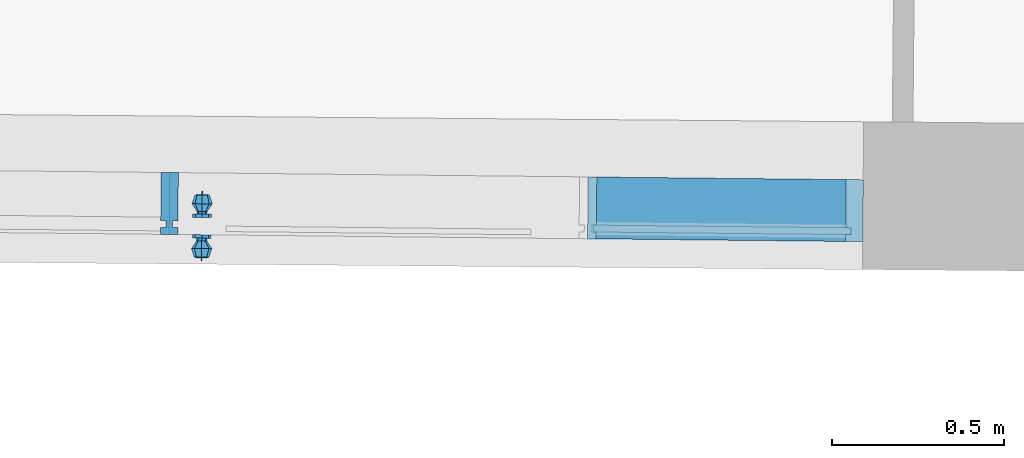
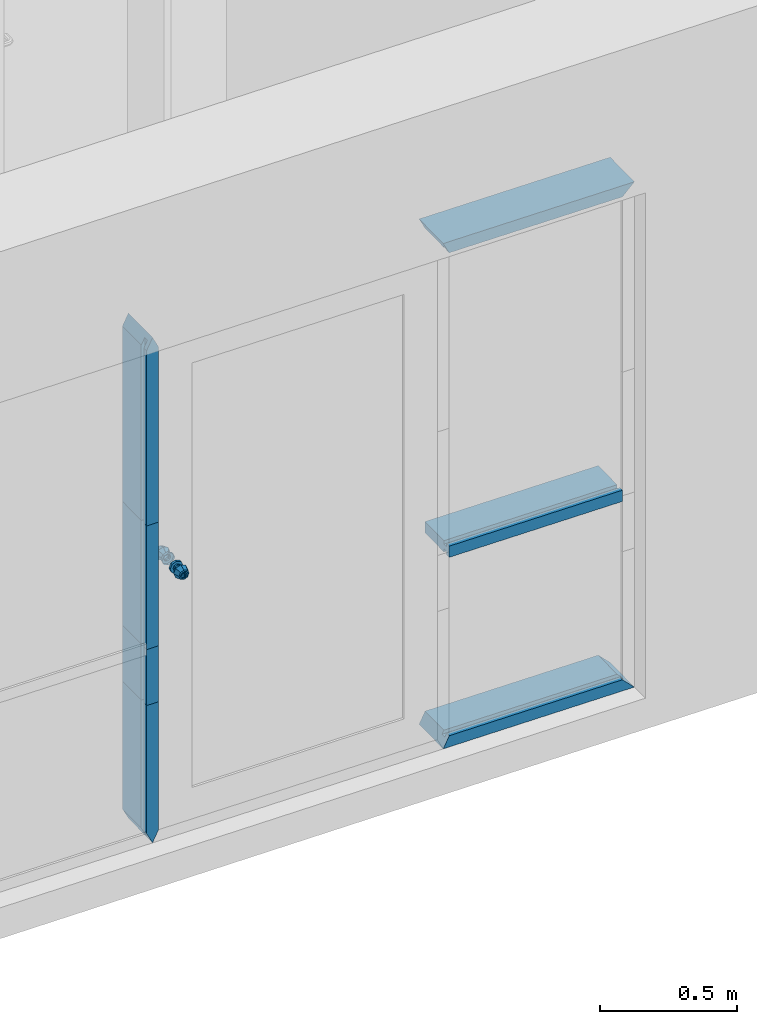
# One storey, part 168 of 196: 8 building element parts, 1 element without a shape of its own.
"""IFC2X3 building model written with IfcOpenShell, lengths in metres."""

from ifc_helpers import new_model, entity, si_unit, converted_unit, derived_unit, money_unit, direction, frame, origin_with_axes, place, context, subcontext, project, spatial, open_shell, faceted_brep, surface_model, material, type_object, element, aggregate, save


model = new_model("IFC2X3")

# Units and contexts
model_context = context("Model", 3, precision=1e-05, world=origin_with_axes(), true_north=direction((0.0, 1.0)))
body_context = subcontext(model_context, "Body", "Model", "MODEL_VIEW")
ifc_project = project(units=[si_unit("LENGTHUNIT", "METRE"), si_unit("AREAUNIT", "SQUARE_METRE"), si_unit("VOLUMEUNIT", "CUBIC_METRE"), converted_unit("PLANEANGLEUNIT", "DEGREE", entity("IfcPlaneAngleMeasure", 0.0174532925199), si_unit("PLANEANGLEUNIT", "RADIAN"), dimensions=[0, 0, 0, 0, 0, 0, 0]), money_unit("EUR"), converted_unit("TIMEUNIT", "Year", entity("IfcTimeMeasure", 31556926.0), si_unit("TIMEUNIT", "SECOND"), dimensions=[0, 0, 1, 0, 0, 0, 0]), si_unit("MASSUNIT", "GRAM", prefix="KILO"), si_unit("THERMODYNAMICTEMPERATUREUNIT", "DEGREE_CELSIUS"), si_unit("LUMINOUSINTENSITYUNIT", "LUMEN"), si_unit("ENERGYUNIT", "JOULE", prefix="MEGA"), derived_unit("THERMALCONDUCTANCEUNIT", [(si_unit("POWERUNIT", "WATT"), 1), (si_unit("LENGTHUNIT", "METRE"), -1), (si_unit("THERMODYNAMICTEMPERATUREUNIT", "KELVIN"), -1)]), derived_unit("SPECIFICHEATCAPACITYUNIT", [(si_unit("ENERGYUNIT", "JOULE"), 1), (si_unit("MASSUNIT", "GRAM", prefix="KILO"), -1), (si_unit("THERMODYNAMICTEMPERATUREUNIT", "KELVIN"), -1)]), derived_unit("MASSDENSITYUNIT", [(si_unit("MASSUNIT", "GRAM", prefix="KILO"), 1), (si_unit("VOLUMEUNIT", "CUBIC_METRE"), -1)])], contexts=[model_context])

# Site, building, storey
site_placement = place(None, origin_with_axes())
site = spatial("IfcSite", under=ifc_project, at=site_placement, Name="Gelände", CompositionType="ELEMENT")
building_placement = place(site_placement, origin_with_axes())
building = spatial("IfcBuilding", under=site, at=building_placement, Name="Gebäude", CompositionType="ELEMENT")
storey_placement = place(building_placement, frame((0.0, 0.0, -3.0), z_axis=(0.0, 0.0, 1.0), x_axis=(1.0, 0.0, 0.0)))
storey = spatial("IfcBuildingStorey", under=building, at=storey_placement, Name="KELLERGESCHOSS", CompositionType="ELEMENT", Elevation=-3.0)

# Proxy, building element parts
building_element_proxy_type = type_object("IfcBuildingElementProxyType", Name="Fassadentyp", PredefinedType="NOTDEFINED")
proxy_placement = place(storey_placement, frame((-5.58247621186, 39.1627608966, 0.57767685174), z_axis=(0.0, 0.0, 1.0), x_axis=(1.0, 0.0, 0.0)))
proxy = element("IfcBuildingElementProxy", 1, at=proxy_placement, inside=storey, type_object=building_element_proxy_type, Name="Fassade-002")
ifc_material_1 = material(Name="54_Metall, Edelstahl")
building_element_part_1_placement = place(proxy_placement, origin_with_axes())
building_element_part_1 = element("IfcBuildingElementPart", 2, at=building_element_part_1_placement, material=ifc_material_1, Name="54_Metall, Edelstahl", context=body_context, shape_type="SurfaceModel", body=[
    surface_model("IfcShellBasedSurfaceModel", [(0.493959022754, -0.100367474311, 1.1928179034), (0.490435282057, -0.102392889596, 1.1893154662), (0.501937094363, -0.102512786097, 1.18455100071), (0.501958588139, -0.100450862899, 1.1895041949), (0.490645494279, -0.100332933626, 1.2008179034), (0.485671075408, -0.10234322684, 1.2008179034), (0.486950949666, -0.100306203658, 1.18580957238), (0.50195846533, -0.100462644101, 1.17959291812), (0.513438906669, -0.102632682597, 1.1893154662), (0.509958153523, -0.100534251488, 1.1928179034), (0.513271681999, -0.100568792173, 1.2008179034), (0.509958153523, -0.100534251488, 1.2088179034), (0.501958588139, -0.100450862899, 1.2121316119), (0.493959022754, -0.100367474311, 1.2088179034), (0.490435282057, -0.102392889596, 1.2123203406), (0.480734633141, -0.100241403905, 1.2008179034), (0.481178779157, -0.0750969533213, 1.17977494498), (0.502220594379, -0.0753162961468, 1.17105866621), (0.516965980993, -0.100619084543, 1.18580957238), (0.518203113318, -0.102682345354, 1.2008179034), (0.513438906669, -0.102632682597, 1.2123203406), (0.501937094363, -0.102512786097, 1.21708480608), (0.486950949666, -0.100306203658, 1.21582623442), (0.472462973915, -0.0750060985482, 1.2008179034), (0.491844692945, -0.0531296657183, 1.19021130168), (0.502450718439, -0.0532402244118, 1.1858179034), (0.5232624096, -0.0755356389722, 1.17977494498), (0.523182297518, -0.100683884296, 1.2008179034), (0.516965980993, -0.100619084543, 1.21582623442), (0.50195846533, -0.100462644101, 1.22204288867), (0.481178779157, -0.0750969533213, 1.22186086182), (0.487451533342, -0.0530838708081, 1.2008179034), (0.491844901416, -0.0531096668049, 1.19021130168), (0.50245092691, -0.0532202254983, 1.1858179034), (0.513056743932, -0.0533507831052, 1.19021130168), (0.531978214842, -0.0756264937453, 1.2008179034), (0.5232624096, -0.0755356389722, 1.22186086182), (0.502220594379, -0.0753162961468, 1.23057714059), (0.491844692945, -0.0531296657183, 1.21142450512), (0.487451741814, -0.0530638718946, 1.2008179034), (0.491927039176, -0.045230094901, 1.19021130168), (0.50253306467, -0.0453406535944, 1.1858179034), (0.513056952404, -0.0533307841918, 1.19021130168), (0.517449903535, -0.0533965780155, 1.2008179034), (0.513056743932, -0.0533507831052, 1.21142450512), (0.502450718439, -0.0532402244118, 1.2158179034), (0.491844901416, -0.0531096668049, 1.21142450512), (0.487533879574, -0.0451842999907, 1.2008179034), (0.491928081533, -0.0451301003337, 1.19021130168), (0.502534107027, -0.0452406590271, 1.1858179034), (0.513139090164, -0.0454512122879, 1.19021130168), (0.517450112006, -0.053376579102, 1.2008179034), (0.513056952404, -0.0533307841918, 1.21142450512), (0.50245092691, -0.0532202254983, 1.2158179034), (0.491927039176, -0.045230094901, 1.21142450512), (0.487534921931, -0.0450843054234, 1.2008179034), (0.491857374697, -0.0451293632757, 1.190140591), (0.502534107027, -0.0452406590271, 1.1857179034), (0.513140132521, -0.0453512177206, 1.19021130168), (0.517532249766, -0.0454970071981, 1.2008179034), (0.513139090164, -0.0454512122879, 1.21142450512), (0.50253306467, -0.0453406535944, 1.2158179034), (0.491928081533, -0.0451301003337, 1.21142450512), (0.487434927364, -0.045083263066, 1.2008179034), (0.483513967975, -0.0450423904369, 1.18179673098), (0.502534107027, -0.0452406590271, 1.1739179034), (0.513210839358, -0.0453519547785, 1.190140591), (0.517533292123, -0.0453970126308, 1.2008179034), (0.513140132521, -0.0453512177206, 1.21142450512), (0.502534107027, -0.0452406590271, 1.2158179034), (0.491857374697, -0.0451293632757, 1.21149521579), (0.475635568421, -0.0449602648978, 1.2008179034), (0.483443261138, -0.0450416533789, 1.18172602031), (0.502534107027, -0.0452406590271, 1.1738179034), (0.521554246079, -0.0454389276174, 1.18179673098), (0.517633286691, -0.0453980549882, 1.2008179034), (0.513210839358, -0.0453519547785, 1.21149521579), (0.502534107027, -0.0452406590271, 1.2159179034), (0.483513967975, -0.0450423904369, 1.21983907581), (0.475535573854, -0.0449592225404, 1.2008179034), (0.483444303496, -0.0449416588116, 1.18172602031), (0.502535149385, -0.0451406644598, 1.1738179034), (0.521624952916, -0.0454396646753, 1.18172602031), (0.529432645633, -0.0455210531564, 1.2008179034), (0.521554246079, -0.0454389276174, 1.21983907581), (0.502534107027, -0.0452406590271, 1.2277179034), (0.483443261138, -0.0450416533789, 1.21990978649), (0.475536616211, -0.0448592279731, 1.2008179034), (0.483547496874, -0.0350421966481, 1.18172602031), (0.502638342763, -0.0352412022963, 1.1738179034), (0.521625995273, -0.045339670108, 1.18172602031), (0.5295326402, -0.0455220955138, 1.2008179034), (0.521624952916, -0.0454396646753, 1.21990978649), (0.502534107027, -0.0452406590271, 1.2278179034), (0.483444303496, -0.0449416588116, 1.21990978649), (0.47563980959, -0.0349597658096, 1.2008179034), (0.521729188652, -0.0354402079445, 1.18172602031), (0.529533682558, -0.0454221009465, 1.2008179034), (0.521625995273, -0.045339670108, 1.21990978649), (0.502535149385, -0.0451406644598, 1.2278179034), (0.483547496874, -0.0350421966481, 1.21990978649), (0.529636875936, -0.035522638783, 1.2008179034), (0.521729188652, -0.0354402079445, 1.21990978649), (0.502638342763, -0.0352412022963, 1.2278179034)], [open_shell([[[0, 1, 2, 3]], [[4, 5, 1, 0]], [[1, 6, 7, 2]], [[3, 2, 8, 9]], [[3, 9, 10, 11, 12, 13, 4, 0]], [[13, 14, 5, 4]], [[5, 15, 6, 1]], [[6, 16, 17, 7]], [[2, 7, 18, 8]], [[9, 8, 19, 10]], [[10, 19, 20, 11]], [[11, 20, 21, 12]], [[12, 21, 14, 13]], [[14, 22, 15, 5]], [[15, 23, 16, 6]], [[16, 24, 25, 17]], [[7, 17, 26, 18]], [[8, 18, 27, 19]], [[19, 27, 28, 20]], [[20, 28, 29, 21]], [[21, 29, 22, 14]], [[22, 30, 23, 15]], [[23, 31, 24, 16]], [[24, 32, 33, 25]], [[17, 25, 34, 26]], [[18, 26, 35, 27]], [[27, 35, 36, 28]], [[28, 36, 37, 29]], [[29, 37, 30, 22]], [[30, 38, 31, 23]], [[31, 39, 32, 24]], [[32, 40, 41, 33]], [[25, 33, 42, 34]], [[26, 34, 43, 35]], [[35, 43, 44, 36]], [[36, 44, 45, 37]], [[37, 45, 38, 30]], [[38, 46, 39, 31]], [[39, 47, 40, 32]], [[40, 48, 49, 41]], [[33, 41, 50, 42]], [[34, 42, 51, 43]], [[43, 51, 52, 44]], [[44, 52, 53, 45]], [[45, 53, 46, 38]], [[46, 54, 47, 39]], [[47, 55, 48, 40]], [[48, 56, 57, 49]], [[41, 49, 58, 50]], [[42, 50, 59, 51]], [[51, 59, 60, 52]], [[52, 60, 61, 53]], [[53, 61, 54, 46]], [[54, 62, 55, 47]], [[55, 63, 56, 48]], [[56, 64, 65, 57]], [[49, 57, 66, 58]], [[50, 58, 67, 59]], [[59, 67, 68, 60]], [[60, 68, 69, 61]], [[61, 69, 62, 54]], [[62, 70, 63, 55]], [[63, 71, 64, 56]], [[64, 72, 73, 65]], [[57, 65, 74, 66]], [[58, 66, 75, 67]], [[67, 75, 76, 68]], [[68, 76, 77, 69]], [[69, 77, 70, 62]], [[70, 78, 71, 63]], [[71, 79, 72, 64]], [[72, 80, 81, 73]], [[65, 73, 82, 74]], [[66, 74, 83, 75]], [[75, 83, 84, 76]], [[76, 84, 85, 77]], [[77, 85, 78, 70]], [[78, 86, 79, 71]], [[79, 87, 80, 72]], [[80, 88, 89, 81]], [[73, 81, 90, 82]], [[74, 82, 91, 83]], [[83, 91, 92, 84]], [[84, 92, 93, 85]], [[85, 93, 86, 78]], [[86, 94, 87, 79]], [[87, 95, 88, 80]], [[81, 89, 96, 90]], [[82, 90, 97, 91]], [[91, 97, 98, 92]], [[92, 98, 99, 93]], [[93, 99, 94, 86]], [[94, 100, 95, 87]], [[90, 96, 101, 97]], [[97, 101, 102, 98]], [[98, 102, 103, 99]], [[99, 103, 100, 94]]])]),
    faceted_brep([(0.509382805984, -0.100528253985, 1.2082425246), (0.512458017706, -0.100560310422, 1.2008179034), (0.509382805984, -0.100528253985, 1.19339328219), (0.501958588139, -0.100450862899, 1.1903179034), (0.494534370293, -0.100373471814, 1.19339328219), (0.491459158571, -0.100341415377, 1.2008179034), (0.494534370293, -0.100373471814, 1.2082425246), (0.501958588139, -0.100450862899, 1.2113179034), (0.509367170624, -0.102028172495, 1.2082425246), (0.512442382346, -0.102060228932, 1.2008179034), (0.509367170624, -0.102028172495, 1.19339328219), (0.501942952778, -0.101950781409, 1.1903179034), (0.494518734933, -0.101873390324, 1.19339328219), (0.491443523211, -0.101841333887, 1.2008179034), (0.494518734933, -0.101873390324, 1.2082425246), (0.501942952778, -0.101950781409, 1.2113179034)], [[[0, 1, 2, 3, 4, 5, 6, 7]], [[0, 8, 9, 1]], [[1, 9, 10, 2]], [[2, 10, 11, 3]], [[3, 11, 12, 4]], [[4, 12, 13, 5]], [[5, 13, 14, 6]], [[6, 14, 15, 7]], [[7, 15, 8, 0]], [[8, 15, 14, 13, 12, 11, 10, 9]]]),
    faceted_brep([(0.503442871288, -0.101966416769, 1.2108179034), (0.500443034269, -0.101935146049, 1.2108179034), (0.500369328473, -0.109005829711, 1.20788897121), (0.503369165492, -0.109037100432, 1.20788897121), (0.503442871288, -0.101966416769, 1.1908179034), (0.500443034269, -0.101935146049, 1.1908179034), (0.500369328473, -0.109005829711, 1.19374683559), (0.500338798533, -0.11193460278, 1.2008179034), (0.503338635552, -0.1119658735, 1.2008179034), (0.503369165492, -0.109037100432, 1.19374683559)], [[[0, 1, 2, 3]], [[4, 5, 1, 0]], [[1, 5, 6, 7, 2]], [[3, 2, 7, 8]], [[0, 3, 8, 9, 4]], [[9, 6, 5, 4]], [[8, 7, 6, 9]]]),
    surface_model("IfcShellBasedSurfaceModel", [(0.495839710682, 0.0800491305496, 1.1928179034), (0.503839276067, 0.0799657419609, 1.1895041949), (0.503860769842, 0.0820276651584, 1.18455100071), (0.492358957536, 0.0821475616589, 1.1893154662), (0.492526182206, 0.080083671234, 1.2008179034), (0.495839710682, 0.0800491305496, 1.2088179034), (0.503839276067, 0.0799657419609, 1.2121316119), (0.511838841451, 0.0798823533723, 1.2088179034), (0.515152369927, 0.0798478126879, 1.2008179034), (0.511838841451, 0.0798823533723, 1.1928179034), (0.515362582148, 0.0819077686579, 1.1893154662), (0.503839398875, 0.0799775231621, 1.17959291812), (0.488831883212, 0.0801339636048, 1.18580957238), (0.487594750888, 0.0821972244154, 1.2008179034), (0.492358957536, 0.0821475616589, 1.2123203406), (0.503860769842, 0.0820276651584, 1.21708480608), (0.515362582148, 0.0819077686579, 1.2123203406), (0.520126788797, 0.0818581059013, 1.2008179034), (0.518846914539, 0.0798210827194, 1.18580957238), (0.503577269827, 0.0548311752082, 1.17105866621), (0.482535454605, 0.0550505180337, 1.17977494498), (0.482615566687, 0.0801987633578, 1.2008179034), (0.488831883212, 0.0801339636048, 1.21582623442), (0.503839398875, 0.0799775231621, 1.22204288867), (0.518846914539, 0.0798210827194, 1.21582623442), (0.525063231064, 0.0797562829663, 1.2008179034), (0.524619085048, 0.0546118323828, 1.17977494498), (0.503347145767, 0.0327551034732, 1.1858179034), (0.492741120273, 0.0328656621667, 1.19021130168), (0.473819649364, 0.0551413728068, 1.2008179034), (0.482535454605, 0.0550505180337, 1.22186086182), (0.503577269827, 0.0548311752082, 1.23057714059), (0.524619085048, 0.0546118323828, 1.22186086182), (0.53333489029, 0.0545209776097, 1.2008179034), (0.51395317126, 0.0326445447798, 1.19021130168), (0.503346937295, 0.0327351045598, 1.1858179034), (0.492740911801, 0.0328456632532, 1.19021130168), (0.48834796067, 0.0329114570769, 1.2008179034), (0.492741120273, 0.0328656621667, 1.21142450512), (0.503347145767, 0.0327551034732, 1.2158179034), (0.51395317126, 0.0326445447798, 1.21142450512), (0.518346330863, 0.0325987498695, 1.2008179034), (0.513952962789, 0.0326245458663, 1.19021130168), (0.503264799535, 0.0248555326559, 1.1858179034), (0.492658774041, 0.0249660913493, 1.19021130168), (0.488347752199, 0.0328914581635, 1.2008179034), (0.492740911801, 0.0328456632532, 1.21142450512), (0.503346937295, 0.0327351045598, 1.2158179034), (0.513952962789, 0.0326245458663, 1.21142450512), (0.518346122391, 0.032578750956, 1.2008179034), (0.513870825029, 0.0247449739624, 1.19021130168), (0.503263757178, 0.0247555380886, 1.1858179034), (0.492657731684, 0.024866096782, 1.19021130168), (0.488265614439, 0.0250118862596, 1.2008179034), (0.492658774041, 0.0249660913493, 1.21142450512), (0.503264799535, 0.0248555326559, 1.2158179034), (0.513870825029, 0.0247449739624, 1.21142450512), (0.518263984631, 0.0246991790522, 1.2008179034), (0.513869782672, 0.0246449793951, 1.19021130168), (0.503263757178, 0.0247555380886, 1.1857179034), (0.492587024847, 0.02486683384, 1.190140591), (0.488264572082, 0.0249118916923, 1.2008179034), (0.492657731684, 0.024866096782, 1.21142450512), (0.503263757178, 0.0247555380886, 1.2158179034), (0.513869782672, 0.0246449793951, 1.21142450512), (0.518262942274, 0.0245991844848, 1.2008179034), (0.513940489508, 0.0246442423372, 1.190140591), (0.503263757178, 0.0247555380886, 1.1739179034), (0.484243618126, 0.0249538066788, 1.18179673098), (0.488164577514, 0.0249129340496, 1.2008179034), (0.492587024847, 0.02486683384, 1.21149521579), (0.503263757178, 0.0247555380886, 1.2159179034), (0.513940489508, 0.0246442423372, 1.21149521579), (0.518362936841, 0.0245981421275, 1.2008179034), (0.52228389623, 0.0245572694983, 1.18179673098), (0.503263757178, 0.0247555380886, 1.1738179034), (0.484172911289, 0.0249545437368, 1.18172602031), (0.476365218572, 0.0250359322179, 1.2008179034), (0.484243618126, 0.0249538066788, 1.21983907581), (0.503263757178, 0.0247555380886, 1.2277179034), (0.52228389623, 0.0245572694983, 1.21983907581), (0.530162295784, 0.0244751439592, 1.2008179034), (0.522354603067, 0.0245565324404, 1.18172602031), (0.503262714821, 0.0246555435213, 1.1738179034), (0.484171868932, 0.0248545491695, 1.18172602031), (0.476265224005, 0.0250369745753, 1.2008179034), (0.484172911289, 0.0249545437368, 1.21990978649), (0.503263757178, 0.0247555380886, 1.2278179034), (0.522354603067, 0.0245565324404, 1.21990978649), (0.530262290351, 0.0244741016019, 1.2008179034), (0.522353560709, 0.024456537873, 1.18172602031), (0.503159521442, 0.0147560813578, 1.1738179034), (0.484068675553, 0.014955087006, 1.18172602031), (0.476264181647, 0.0249369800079, 1.2008179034), (0.484171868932, 0.0248545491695, 1.21990978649), (0.503262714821, 0.0246555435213, 1.2278179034), (0.522353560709, 0.024456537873, 1.21990978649), (0.530261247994, 0.0243741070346, 1.2008179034), (0.522250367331, 0.0145570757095, 1.18172602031), (0.476160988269, 0.0150375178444, 1.2008179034), (0.484068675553, 0.014955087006, 1.21990978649), (0.503159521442, 0.0147560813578, 1.2278179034), (0.522250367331, 0.0145570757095, 1.21990978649), (0.530158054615, 0.0144746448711, 1.2008179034)], [open_shell([[[0, 1, 2, 3]], [[1, 0, 4, 5, 6, 7, 8, 9]], [[1, 9, 10, 2]], [[3, 2, 11, 12]], [[4, 0, 3, 13]], [[5, 4, 13, 14]], [[6, 5, 14, 15]], [[7, 6, 15, 16]], [[8, 7, 16, 17]], [[9, 8, 17, 10]], [[2, 10, 18, 11]], [[12, 11, 19, 20]], [[13, 3, 12, 21]], [[14, 13, 21, 22]], [[15, 14, 22, 23]], [[16, 15, 23, 24]], [[17, 16, 24, 25]], [[10, 17, 25, 18]], [[11, 18, 26, 19]], [[20, 19, 27, 28]], [[21, 12, 20, 29]], [[22, 21, 29, 30]], [[23, 22, 30, 31]], [[24, 23, 31, 32]], [[25, 24, 32, 33]], [[18, 25, 33, 26]], [[19, 26, 34, 27]], [[28, 27, 35, 36]], [[29, 20, 28, 37]], [[30, 29, 37, 38]], [[31, 30, 38, 39]], [[32, 31, 39, 40]], [[33, 32, 40, 41]], [[26, 33, 41, 34]], [[27, 34, 42, 35]], [[36, 35, 43, 44]], [[37, 28, 36, 45]], [[38, 37, 45, 46]], [[39, 38, 46, 47]], [[40, 39, 47, 48]], [[41, 40, 48, 49]], [[34, 41, 49, 42]], [[35, 42, 50, 43]], [[44, 43, 51, 52]], [[45, 36, 44, 53]], [[46, 45, 53, 54]], [[47, 46, 54, 55]], [[48, 47, 55, 56]], [[49, 48, 56, 57]], [[42, 49, 57, 50]], [[43, 50, 58, 51]], [[52, 51, 59, 60]], [[53, 44, 52, 61]], [[54, 53, 61, 62]], [[55, 54, 62, 63]], [[56, 55, 63, 64]], [[57, 56, 64, 65]], [[50, 57, 65, 58]], [[51, 58, 66, 59]], [[60, 59, 67, 68]], [[61, 52, 60, 69]], [[62, 61, 69, 70]], [[63, 62, 70, 71]], [[64, 63, 71, 72]], [[65, 64, 72, 73]], [[58, 65, 73, 66]], [[59, 66, 74, 67]], [[68, 67, 75, 76]], [[69, 60, 68, 77]], [[70, 69, 77, 78]], [[71, 70, 78, 79]], [[72, 71, 79, 80]], [[73, 72, 80, 81]], [[66, 73, 81, 74]], [[67, 74, 82, 75]], [[76, 75, 83, 84]], [[77, 68, 76, 85]], [[78, 77, 85, 86]], [[79, 78, 86, 87]], [[80, 79, 87, 88]], [[81, 80, 88, 89]], [[74, 81, 89, 82]], [[75, 82, 90, 83]], [[84, 83, 91, 92]], [[85, 76, 84, 93]], [[86, 85, 93, 94]], [[87, 86, 94, 95]], [[88, 87, 95, 96]], [[89, 88, 96, 97]], [[82, 89, 97, 90]], [[83, 90, 98, 91]], [[93, 84, 92, 99]], [[94, 93, 99, 100]], [[95, 94, 100, 101]], [[96, 95, 101, 102]], [[97, 96, 102, 103]], [[90, 97, 103, 98]]])]),
    faceted_brep([(0.511263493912, 0.0798883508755, 1.2082425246), (0.503839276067, 0.0799657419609, 1.2113179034), (0.496415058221, 0.0800431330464, 1.2082425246), (0.493339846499, 0.0800751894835, 1.2008179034), (0.496415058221, 0.0800431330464, 1.19339328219), (0.503839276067, 0.0799657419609, 1.1903179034), (0.511263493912, 0.0798883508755, 1.19339328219), (0.514338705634, 0.0798562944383, 1.2008179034), (0.511279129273, 0.0813882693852, 1.2082425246), (0.503854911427, 0.0814656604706, 1.2113179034), (0.496430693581, 0.081543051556, 1.2082425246), (0.49335548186, 0.0815751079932, 1.2008179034), (0.496430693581, 0.081543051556, 1.19339328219), (0.503854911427, 0.0814656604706, 1.1903179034), (0.511279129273, 0.0813882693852, 1.19339328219), (0.514354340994, 0.081356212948, 1.2008179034)], [[[0, 1, 2, 3, 4, 5, 6, 7]], [[1, 0, 8, 9]], [[2, 1, 9, 10]], [[3, 2, 10, 11]], [[4, 3, 11, 12]], [[5, 4, 12, 13]], [[6, 5, 13, 14]], [[7, 6, 14, 15]], [[0, 7, 15, 8]], [[8, 15, 14, 13, 12, 11, 10, 9]]]),
    faceted_brep([(0.505354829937, 0.0814500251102, 1.2108179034), (0.505428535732, 0.0885207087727, 1.20788897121), (0.502428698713, 0.0885519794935, 1.20788897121), (0.502354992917, 0.0814812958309, 1.2108179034), (0.505354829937, 0.0814500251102, 1.1908179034), (0.505428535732, 0.0885207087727, 1.19374683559), (0.505459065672, 0.091449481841, 1.2008179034), (0.502459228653, 0.0914807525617, 1.2008179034), (0.502428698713, 0.0885519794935, 1.19374683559), (0.502354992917, 0.0814812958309, 1.1908179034)], [[[0, 1, 2, 3]], [[0, 4, 5, 6, 1]], [[1, 6, 7, 2]], [[3, 2, 7, 8, 9]], [[4, 0, 3, 9]], [[5, 4, 9, 8]], [[6, 5, 8, 7]]]),
])
ifc_material_2 = material(Name="53_Metall, Aluminium")
building_element_part_2_placement = place(proxy_placement, origin_with_axes())
building_element_part_2 = element("IfcBuildingElementPart", 3, at=building_element_part_2_placement, material=ifc_material_2, Name="53_Metall, Aluminium", context=body_context, shape_type="Brep", body=[
    faceted_brep([(2.39099130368, -0.0149234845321, 0.035), (2.3907828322, -0.0349223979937, 0.035), (2.37578364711, -0.03476604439, 0.05), (2.37557517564, -0.0547649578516, 0.05), (2.42557245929, -0.0552861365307, 0.0), (2.42744870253, 0.124704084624, 0.0), (2.37745141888, 0.125225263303, 0.05), (2.37599211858, -0.0147671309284, 0.05), (1.64287864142, -0.00712505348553, 0.035), (1.64267016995, -0.0271239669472, 0.035), (1.6501697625, -0.027202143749, 0.05), (1.64996129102, -0.0472010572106, 0.05), (1.6249626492, -0.0469404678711, 0.0), (1.62683889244, 0.133049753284, 0.0), (1.65183753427, 0.132789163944, 0.05), (1.65037823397, -0.00720323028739, 0.05)], [[[0, 1, 2, 3, 4, 5, 6, 7]], [[1, 0, 8, 9]], [[10, 2, 1, 9]], [[2, 10, 11, 3]], [[4, 3, 11, 12]], [[5, 4, 12, 13]], [[6, 5, 13, 14]], [[15, 7, 6, 14]], [[0, 7, 15, 8]], [[8, 15, 14, 13, 12, 11, 10, 9]]]),
])
building_element_part_3_placement = place(proxy_placement, origin_with_axes())
building_element_part_3 = element("IfcBuildingElementPart", 4, at=building_element_part_3_placement, material=ifc_material_2, Name="53_Metall, Aluminium", context=body_context, shape_type="Brep", body=[
    faceted_brep([(2.39099130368, -0.0149234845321, 2.21581791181), (2.37599211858, -0.0147671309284, 2.20081791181), (2.37745141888, 0.125225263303, 2.20081791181), (2.42744870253, 0.124704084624, 2.25081791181), (2.42557245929, -0.0552861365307, 2.25081791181), (2.37557517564, -0.0547649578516, 2.20081791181), (2.37578364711, -0.03476604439, 2.20081791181), (2.3907828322, -0.0349223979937, 2.21581791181), (1.64287864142, -0.00712505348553, 2.21581791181), (1.65037823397, -0.00720323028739, 2.20081791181), (1.65183753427, 0.132789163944, 2.20081791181), (1.62683889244, 0.133049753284, 2.25081791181), (1.6249626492, -0.0469404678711, 2.25081791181), (1.64996129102, -0.0472010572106, 2.20081791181), (1.6501697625, -0.027202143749, 2.20081791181), (1.64267016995, -0.0271239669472, 2.21581791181)], [[[0, 1, 2, 3, 4, 5, 6, 7]], [[0, 8, 9, 1]], [[9, 10, 2, 1]], [[2, 10, 11, 3]], [[3, 11, 12, 4]], [[4, 12, 13, 5]], [[6, 5, 13, 14]], [[14, 15, 7, 6]], [[7, 15, 8, 0]], [[8, 15, 14, 13, 12, 11, 10, 9]]]),
])
building_element_part_4_placement = place(proxy_placement, origin_with_axes())
building_element_part_4 = element("IfcBuildingElementPart", 5, at=building_element_part_4_placement, material=ifc_material_2, Name="53_Metall, Aluminium", context=body_context, shape_type="Brep", body=[
    faceted_brep([(2.37599211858, -0.0147671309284, 0.859344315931), (2.37599211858, -0.0147671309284, 0.844344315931), (2.37745141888, 0.125225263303, 0.844344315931), (2.37745141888, 0.125225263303, 0.894344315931), (2.37599211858, -0.0147671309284, 0.894344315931), (2.37599211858, -0.0147671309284, 0.879344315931), (2.37578364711, -0.03476604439, 0.879344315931), (2.37578364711, -0.03476604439, 0.894344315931), (2.37557517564, -0.0547649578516, 0.894344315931), (2.37557517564, -0.0547649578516, 0.844344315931), (2.37578364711, -0.03476604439, 0.844344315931), (2.37578364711, -0.03476604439, 0.859344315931), (1.65037823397, -0.00720323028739, 0.859344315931), (1.65037823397, -0.00720323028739, 0.844344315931), (1.65183753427, 0.132789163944, 0.844344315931), (1.65183753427, 0.132789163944, 0.894344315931), (1.65037823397, -0.00720323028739, 0.894344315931), (1.65037823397, -0.00720323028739, 0.879344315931), (1.6501697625, -0.027202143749, 0.879344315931), (1.6501697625, -0.027202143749, 0.894344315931), (1.64996129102, -0.0472010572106, 0.894344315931), (1.64996129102, -0.0472010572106, 0.844344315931), (1.6501697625, -0.027202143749, 0.844344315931), (1.6501697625, -0.027202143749, 0.859344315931)], [[[0, 1, 2, 3, 4, 5, 6, 7, 8, 9, 10, 11]], [[1, 0, 12, 13]], [[1, 13, 14, 2]], [[2, 14, 15, 3]], [[4, 3, 15, 16]], [[4, 16, 17, 5]], [[5, 17, 18, 6]], [[7, 6, 18, 19]], [[19, 20, 8, 7]], [[8, 20, 21, 9]], [[22, 10, 9, 21]], [[11, 10, 22, 23]], [[0, 11, 23, 12]], [[23, 22, 21, 20, 19, 18, 17, 16, 15, 14, 13, 12]]]),
])
building_element_part_5_placement = place(proxy_placement, origin_with_axes())
building_element_part_5 = element("IfcBuildingElementPart", 6, at=building_element_part_5_placement, material=ifc_material_2, Name="53_Metall, Aluminium", context=body_context, shape_type="Brep", body=[
    faceted_brep([(0.418059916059, 0.00564262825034, 1.41999992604), (0.433059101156, 0.00548627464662, 1.41999992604), (0.434518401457, 0.145478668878, 1.41999992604), (0.384521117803, 0.145999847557, 1.41999992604), (0.383061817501, 0.00600745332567, 1.41999992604), (0.398061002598, 0.00585109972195, 1.41999992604), (0.397852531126, -0.0141478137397, 1.41999992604), (0.38285334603, -0.013991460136, 1.41999992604), (0.382644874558, -0.0339903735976, 1.41999992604), (0.432642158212, -0.0345115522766, 1.41999992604), (0.432850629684, -0.014512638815, 1.41999992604), (0.417851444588, -0.0143562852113, 1.41999992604), (0.418059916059, 0.00564262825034, 0.869344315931), (0.433059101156, 0.00548627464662, 0.869344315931), (0.434518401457, 0.145478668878, 0.869344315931), (0.384521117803, 0.145999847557, 0.869344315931), (0.383061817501, 0.00600745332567, 0.869344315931), (0.398061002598, 0.00585109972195, 0.869344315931), (0.397852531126, -0.0141478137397, 0.869344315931), (0.38285334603, -0.013991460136, 0.869344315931), (0.382644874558, -0.0339903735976, 0.869344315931), (0.432642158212, -0.0345115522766, 0.869344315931), (0.432850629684, -0.014512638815, 0.869344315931), (0.417851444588, -0.0143562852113, 0.869344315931)], [[[0, 1, 2, 3, 4, 5, 6, 7, 8, 9, 10, 11]], [[1, 0, 12, 13]], [[1, 13, 14, 2]], [[3, 2, 14, 15]], [[4, 3, 15, 16]], [[4, 16, 17, 5]], [[5, 17, 18, 6]], [[7, 6, 18, 19]], [[19, 20, 8, 7]], [[9, 8, 20, 21]], [[22, 10, 9, 21]], [[11, 10, 22, 23]], [[0, 11, 23, 12]], [[23, 22, 21, 20, 19, 18, 17, 16, 15, 14, 13, 12]]]),
])
building_element_part_6_placement = place(proxy_placement, origin_with_axes())
building_element_part_6 = element("IfcBuildingElementPart", 7, at=building_element_part_6_placement, material=ifc_material_2, Name="53_Metall, Aluminium", context=body_context, shape_type="Brep", body=[
    faceted_brep([(0.418059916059, 0.00564262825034, 2.23081791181), (0.433059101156, 0.00548627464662, 2.20081791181), (0.434518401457, 0.145478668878, 2.20081791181), (0.40951975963, 0.145739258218, 2.25081791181), (0.407643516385, -0.0342509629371, 2.25081791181), (0.432642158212, -0.0345115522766, 2.20081791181), (0.432850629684, -0.014512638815, 2.20081791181), (0.417851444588, -0.0143562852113, 2.23081791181), (0.418059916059, 0.00564262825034, 1.41999992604), (0.433059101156, 0.00548627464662, 1.41999992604), (0.434518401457, 0.145478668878, 1.41999992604), (0.384521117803, 0.145999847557, 2.20081791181), (0.384521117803, 0.145999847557, 1.41999992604), (0.383061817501, 0.00600745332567, 2.20081791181), (0.398061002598, 0.00585109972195, 2.23081791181), (0.397852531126, -0.0141478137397, 2.23081791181), (0.38285334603, -0.013991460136, 2.20081791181), (0.382644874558, -0.0339903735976, 2.20081791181), (0.432642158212, -0.0345115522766, 1.41999992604), (0.382644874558, -0.0339903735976, 1.41999992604), (0.432850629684, -0.014512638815, 1.41999992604), (0.417851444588, -0.0143562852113, 1.41999992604), (0.38285334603, -0.013991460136, 1.41999992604), (0.397852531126, -0.0141478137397, 1.41999992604), (0.398061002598, 0.00585109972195, 1.41999992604), (0.383061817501, 0.00600745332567, 1.41999992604)], [[[0, 1, 2, 3, 4, 5, 6, 7]], [[1, 0, 8, 9]], [[1, 9, 10, 2]], [[11, 3, 2, 10, 12]], [[3, 11, 13, 14, 15, 16, 17, 4]], [[18, 5, 4, 17, 19]], [[20, 6, 5, 18]], [[7, 6, 20, 21]], [[0, 7, 21, 8]], [[21, 20, 18, 19, 22, 23, 24, 25, 12, 10, 9, 8]], [[13, 11, 12, 25]], [[13, 25, 24, 14]], [[14, 24, 23, 15]], [[16, 15, 23, 22]], [[22, 19, 17, 16]]]),
])
building_element_part_7_placement = place(proxy_placement, origin_with_axes())
building_element_part_7 = element("IfcBuildingElementPart", 8, at=building_element_part_7_placement, material=ifc_material_2, Name="53_Metall, Aluminium", context=body_context, shape_type="Brep", body=[
    faceted_brep([(0.418059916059, 0.00564262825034, 0.869344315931), (0.433059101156, 0.00548627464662, 0.869344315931), (0.434518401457, 0.145478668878, 0.869344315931), (0.384521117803, 0.145999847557, 0.869344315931), (0.383061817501, 0.00600745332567, 0.869344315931), (0.398061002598, 0.00585109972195, 0.869344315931), (0.397852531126, -0.0141478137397, 0.869344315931), (0.38285334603, -0.013991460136, 0.869344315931), (0.382644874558, -0.0339903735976, 0.869344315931), (0.432642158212, -0.0345115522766, 0.869344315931), (0.432850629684, -0.014512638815, 0.869344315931), (0.417851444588, -0.0143562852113, 0.869344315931), (0.418059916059, 0.00564262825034, 0.619999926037), (0.433059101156, 0.00548627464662, 0.619999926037), (0.434518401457, 0.145478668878, 0.619999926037), (0.384521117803, 0.145999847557, 0.619999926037), (0.383061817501, 0.00600745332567, 0.619999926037), (0.398061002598, 0.00585109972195, 0.619999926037), (0.397852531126, -0.0141478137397, 0.619999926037), (0.38285334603, -0.013991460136, 0.619999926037), (0.382644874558, -0.0339903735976, 0.619999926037), (0.432642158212, -0.0345115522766, 0.619999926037), (0.432850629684, -0.014512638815, 0.619999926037), (0.417851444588, -0.0143562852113, 0.619999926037)], [[[0, 1, 2, 3, 4, 5, 6, 7, 8, 9, 10, 11]], [[1, 0, 12, 13]], [[1, 13, 14, 2]], [[3, 2, 14, 15]], [[4, 3, 15, 16]], [[4, 16, 17, 5]], [[5, 17, 18, 6]], [[7, 6, 18, 19]], [[19, 20, 8, 7]], [[9, 8, 20, 21]], [[22, 10, 9, 21]], [[11, 10, 22, 23]], [[0, 11, 23, 12]], [[23, 22, 21, 20, 19, 18, 17, 16, 15, 14, 13, 12]]]),
])
building_element_part_8_placement = place(proxy_placement, origin_with_axes())
building_element_part_8 = element("IfcBuildingElementPart", 9, at=building_element_part_8_placement, material=ifc_material_2, Name="53_Metall, Aluminium", context=body_context, shape_type="Brep", body=[
    faceted_brep([(0.418059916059, 0.00564262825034, 0.619999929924), (0.433059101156, 0.00548627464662, 0.619999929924), (0.434518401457, 0.145478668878, 0.619999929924), (0.384521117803, 0.145999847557, 0.619999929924), (0.383061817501, 0.00600745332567, 0.619999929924), (0.398061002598, 0.00585109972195, 0.619999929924), (0.397852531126, -0.0141478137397, 0.619999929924), (0.38285334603, -0.013991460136, 0.619999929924), (0.382644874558, -0.0339903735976, 0.619999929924), (0.432642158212, -0.0345115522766, 0.619999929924), (0.432850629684, -0.014512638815, 0.619999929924), (0.417851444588, -0.0143562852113, 0.619999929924), (0.418059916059, 0.00564262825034, 0.02), (0.433059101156, 0.00548627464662, 0.05), (0.434518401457, 0.145478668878, 0.05), (0.40951975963, 0.145739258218, 0.0), (0.384521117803, 0.145999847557, 0.05), (0.383061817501, 0.00600745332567, 0.05), (0.398061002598, 0.00585109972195, 0.02), (0.397852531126, -0.0141478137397, 0.02), (0.38285334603, -0.013991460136, 0.05), (0.382644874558, -0.0339903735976, 0.05), (0.407643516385, -0.0342509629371, 0.0), (0.432642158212, -0.0345115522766, 0.05), (0.432850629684, -0.014512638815, 0.05), (0.417851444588, -0.0143562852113, 0.02)], [[[0, 1, 2, 3, 4, 5, 6, 7, 8, 9, 10, 11]], [[1, 0, 12, 13]], [[1, 13, 14, 2]], [[14, 15, 16, 3, 2]], [[4, 3, 16, 17]], [[4, 17, 18, 5]], [[5, 18, 19, 6]], [[7, 6, 19, 20]], [[20, 21, 8, 7]], [[21, 22, 23, 9, 8]], [[24, 10, 9, 23]], [[11, 10, 24, 25]], [[0, 11, 25, 12]], [[25, 24, 23, 22, 15, 14, 13, 12]], [[21, 20, 19, 18, 17, 16, 15, 22]]]),
])
aggregate(proxy, [building_element_part_1, building_element_part_2, building_element_part_3, building_element_part_4, building_element_part_5, building_element_part_6, building_element_part_7, building_element_part_8])

save(model, "model.ifc")
